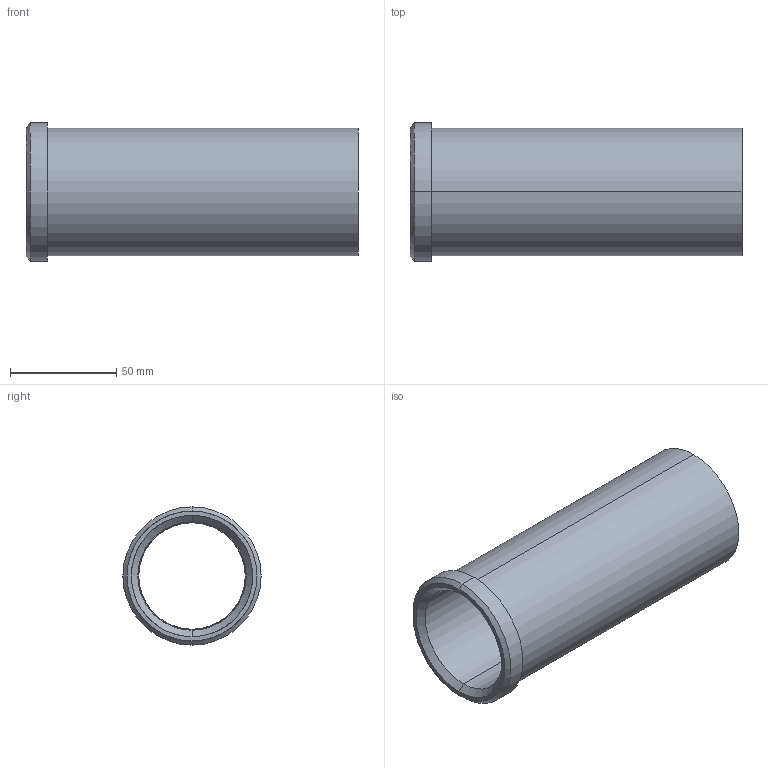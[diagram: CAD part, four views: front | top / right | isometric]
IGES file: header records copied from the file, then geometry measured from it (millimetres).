
Start section: START RECORD GO HERE.
Global section: file name: 353-50X156.igs; native system: DASSAULT SYSTEMES CATIA V5 R20 - www.3ds.com; preprocessor: CATIA Version 5 Release 20 ; author: Utente; organization: NB04-ASUS; date: 20210514.152542; units: millimetre
Bounding box: 156 x 65 x 65 mm (x, y, z)
Surface area: 56305 mm2 (no closed solid volume)
Topology: 0 solids, 0 shells, 18 faces, 116 edges, 116 vertices
Faces by surface type: revolution 14, plane 4
